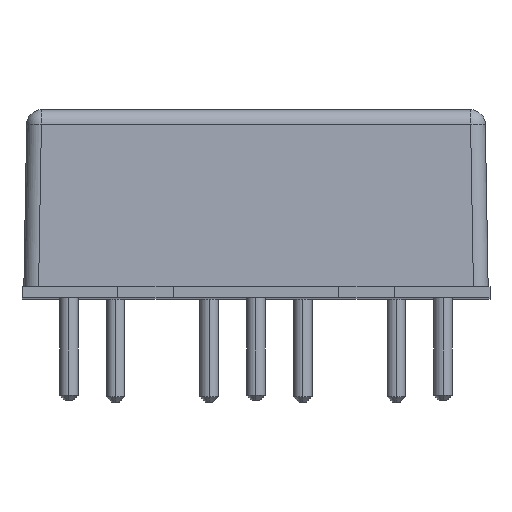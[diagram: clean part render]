
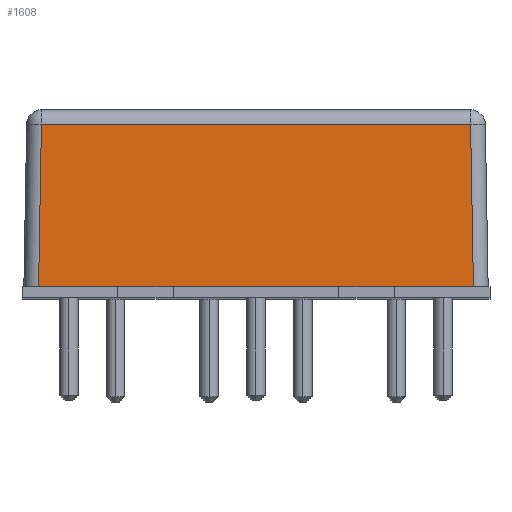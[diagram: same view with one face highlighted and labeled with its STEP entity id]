
A CAD part, top view. The second image highlights one B-rep face of the part: STEP entity #1608.
In plain terms, the highlighted planar face has unit normal (0, 0.018, 1).
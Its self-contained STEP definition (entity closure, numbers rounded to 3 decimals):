
#113 = LINE ( 'NONE', #164, #2644 ) ;
#145 = CARTESIAN_POINT ( 'NONE',  ( 11.646, 9.414, 25.096 ) ) ;
#164 = CARTESIAN_POINT ( 'NONE',  ( -11.646, 9.414, 25.096 ) ) ;
#166 = VECTOR ( 'NONE', #939, 1000. ) ;
#219 = EDGE_CURVE ( 'NONE', #2955, #2397, #3093, .T. ) ;
#234 = ORIENTED_EDGE ( 'NONE', *, *, #3391, .T. ) ;
#295 = VERTEX_POINT ( 'NONE', #145 ) ;
#414 = DIRECTION ( 'NONE',  ( -0.017, -1., 0.017 ) ) ;
#417 = LINE ( 'NONE', #3435, #3484 ) ;
#456 = DIRECTION ( 'NONE',  ( 0., -1., 0.017 ) ) ;
#548 = VERTEX_POINT ( 'NONE', #970 ) ;
#658 = DIRECTION ( 'NONE',  ( -1., 0., 0. ) ) ;
#682 = LINE ( 'NONE', #1113, #2744 ) ;
#939 = DIRECTION ( 'NONE',  ( 1., 0., 0. ) ) ;
#970 = CARTESIAN_POINT ( 'NONE',  ( -11.646, 9.414, 25.096 ) ) ;
#1016 = PLANE ( 'NONE',  #3430 ) ;
#1098 = CARTESIAN_POINT ( 'NONE',  ( -12.7, 0.6, 25.25 ) ) ;
#1113 = CARTESIAN_POINT ( 'NONE',  ( -12.6, 0.6, 25.25 ) ) ;
#1126 = CARTESIAN_POINT ( 'NONE',  ( -11.8, 0.6, 25.25 ) ) ;
#1229 = DIRECTION ( 'NONE',  ( 0., 0.017, 1. ) ) ;
#1237 = ORIENTED_EDGE ( 'NONE', *, *, #1393, .F. ) ;
#1288 = EDGE_CURVE ( 'NONE', #548, #2699, #113, .T. ) ;
#1290 = ORIENTED_EDGE ( 'NONE', *, *, #2222, .T. ) ;
#1297 = CARTESIAN_POINT ( 'NONE',  ( -4.5, 0.6, 25.25 ) ) ;
#1319 = ORIENTED_EDGE ( 'NONE', *, *, #219, .F. ) ;
#1349 = CARTESIAN_POINT ( 'NONE',  ( -7.5, 0.6, 25.25 ) ) ;
#1356 = ORIENTED_EDGE ( 'NONE', *, *, #2323, .F. ) ;
#1393 = EDGE_CURVE ( 'NONE', #2321, #2699, #417, .T. ) ;
#1402 = LINE ( 'NONE', #2517, #166 ) ;
#1414 = VERTEX_POINT ( 'NONE', #1297 ) ;
#1419 = CARTESIAN_POINT ( 'NONE',  ( 4.5, 0.6, 25.25 ) ) ;
#1575 = VECTOR ( 'NONE', #2698, 1000. ) ;
#1608 = ADVANCED_FACE ( 'NONE', ( #2862 ), #1016, .T. ) ;
#1687 = EDGE_LOOP ( 'NONE', ( #1290, #1356, #2501, #1319, #3219, #234, #1819, #1237 ) ) ;
#1726 = EDGE_CURVE ( 'NONE', #2955, #295, #2934, .T. ) ;
#1819 = ORIENTED_EDGE ( 'NONE', *, *, #1288, .T. ) ;
#1891 = DIRECTION ( 'NONE',  ( -0.017, 1., -0.017 ) ) ;
#2017 = CARTESIAN_POINT ( 'NONE',  ( -12.7, 0.6, 25.25 ) ) ;
#2106 = DIRECTION ( 'NONE',  ( -1., 0., 0. ) ) ;
#2222 = EDGE_CURVE ( 'NONE', #2321, #1414, #1402, .T. ) ;
#2292 = VECTOR ( 'NONE', #2974, 1000. ) ;
#2321 = VERTEX_POINT ( 'NONE', #1349 ) ;
#2323 = EDGE_CURVE ( 'NONE', #3383, #1414, #3372, .T. ) ;
#2339 = CARTESIAN_POINT ( 'NONE',  ( -12.6, 0.6, 25.25 ) ) ;
#2397 = VERTEX_POINT ( 'NONE', #3282 ) ;
#2501 = ORIENTED_EDGE ( 'NONE', *, *, #3025, .T. ) ;
#2517 = CARTESIAN_POINT ( 'NONE',  ( -12.6, 0.6, 25.25 ) ) ;
#2644 = VECTOR ( 'NONE', #414, 1000. ) ;
#2664 = CARTESIAN_POINT ( 'NONE',  ( -12.6, 9.414, 25.096 ) ) ;
#2676 = VECTOR ( 'NONE', #1891, 1000. ) ;
#2698 = DIRECTION ( 'NONE',  ( -1., 0., 0. ) ) ;
#2699 = VERTEX_POINT ( 'NONE', #1126 ) ;
#2701 = CARTESIAN_POINT ( 'NONE',  ( 11.8, 0.6, 25.25 ) ) ;
#2706 = LINE ( 'NONE', #2664, #1575 ) ;
#2744 = VECTOR ( 'NONE', #3258, 1000. ) ;
#2862 = FACE_OUTER_BOUND ( 'NONE', #1687, .T. ) ;
#2908 = CARTESIAN_POINT ( 'NONE',  ( 11.8, 0.6, 25.25 ) ) ;
#2934 = LINE ( 'NONE', #2701, #2676 ) ;
#2955 = VERTEX_POINT ( 'NONE', #2908 ) ;
#2974 = DIRECTION ( 'NONE',  ( -1., 0., 0. ) ) ;
#3025 = EDGE_CURVE ( 'NONE', #3383, #2397, #682, .T. ) ;
#3093 = LINE ( 'NONE', #2017, #3475 ) ;
#3219 = ORIENTED_EDGE ( 'NONE', *, *, #1726, .T. ) ;
#3258 = DIRECTION ( 'NONE',  ( 1., 0., 0. ) ) ;
#3282 = CARTESIAN_POINT ( 'NONE',  ( 7.5, 0.6, 25.25 ) ) ;
#3372 = LINE ( 'NONE', #1098, #2292 ) ;
#3383 = VERTEX_POINT ( 'NONE', #1419 ) ;
#3391 = EDGE_CURVE ( 'NONE', #295, #548, #2706, .T. ) ;
#3430 = AXIS2_PLACEMENT_3D ( 'NONE', #2339, #1229, #456 ) ;
#3435 = CARTESIAN_POINT ( 'NONE',  ( -12.7, 0.6, 25.25 ) ) ;
#3475 = VECTOR ( 'NONE', #658, 1000. ) ;
#3484 = VECTOR ( 'NONE', #2106, 1000. ) ;
